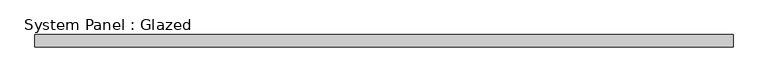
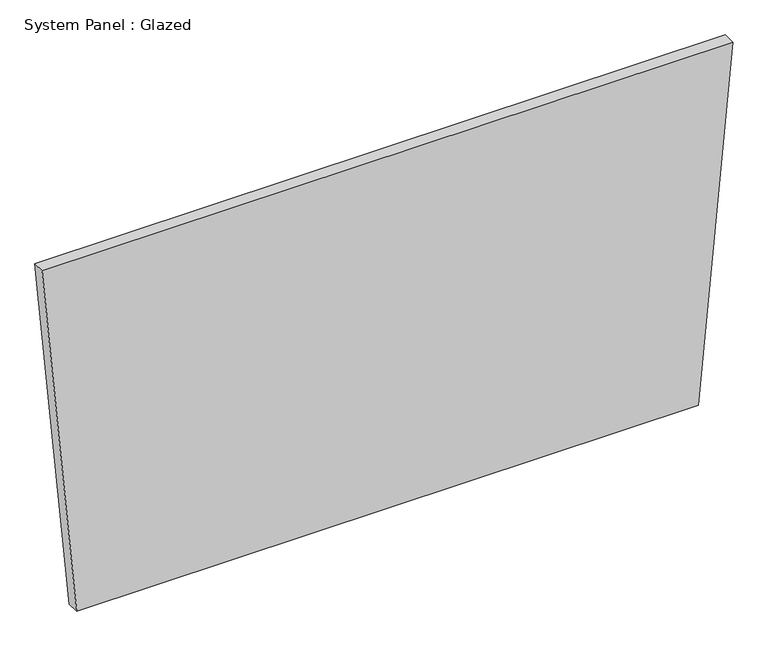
"""IFC4 building model written with IfcOpenShell, lengths in millimetres: plate geometry, System Panel : Glazed."""

from ifc_helpers import new_model, si_unit, frame, origin, place, context, project, spatial, polyline, outline, extrude, source, transform, mapped, element, save


def system_panel_glazed_6e7ce93c(model_context):
    return source(origin(), model_context, "Body", "SweptSolid", [
        extrude(outline(polyline([(0.0, -634.0223243), (0.0, 634.0223243), (758.7366017, 704.4692492), (758.7366017, -704.4692492), (0.0, -634.0223243)])), frame((0.0, -44.45, 0.0), z_axis=(0.0, 1.0, 0.0), x_axis=(0.0, 0.0, 1.0)), (0.0, 0.0, 1.0), 25.4),
    ])


if __name__ == "__main__":
    model = new_model("IFC4")
    model_context = context("Model", 3, world=origin())
    ifc_project = project(units=[si_unit("LENGTHUNIT", "METRE", prefix="MILLI")], contexts=[model_context])
    site = spatial("IfcSite", under=ifc_project)
    building = spatial("IfcBuilding", under=site)
    placement = place(None, origin())
    system_panel_glazed_shape = system_panel_glazed_6e7ce93c(model_context)
    element("IfcPlate", 1, ObjectType="System Panel : Glazed", at=placement, inside=building, context=model_context, shape_type="MappedRepresentation", body=[
        mapped(system_panel_glazed_shape, transform((0.0, 0.0, 0.0), x_axis=(1.0, 0.0, 0.0), y_axis=(0.0, 1.0, 0.0), z_axis=(0.0, 0.0, 1.0))),
    ])
    save(model, "model.ifc")
